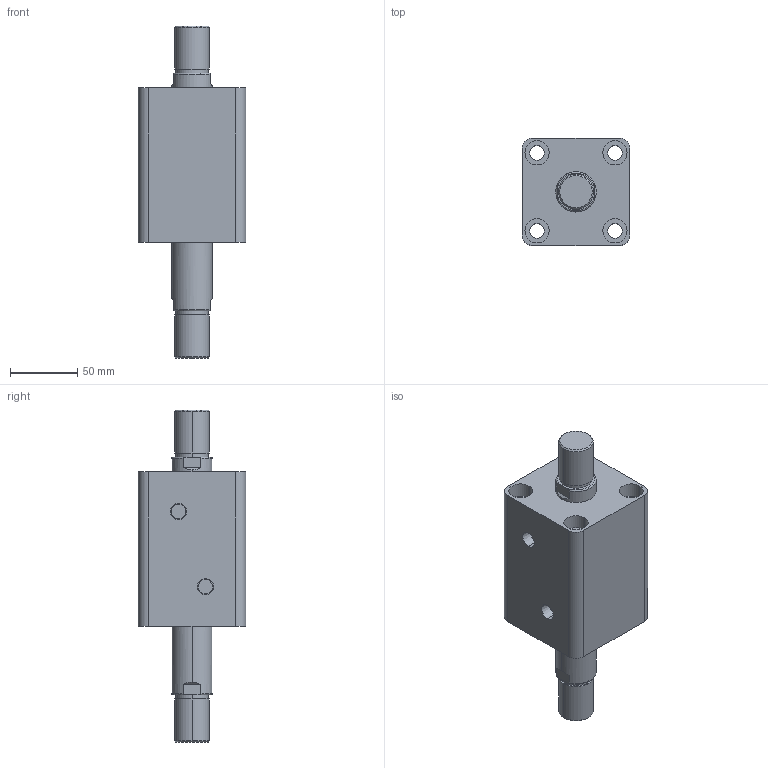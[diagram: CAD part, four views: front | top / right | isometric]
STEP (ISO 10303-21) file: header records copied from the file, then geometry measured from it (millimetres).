
FILE_DESCRIPTION (( 'STEP AP203' ), '1' );
FILE_NAME ('HTB-SW50-40W.STEP', '2019-10-07T09:20:06', ( '微软用户' ), ( '微软中国' ), 'SwSTEP 2.0', 'SolidWorks 2012', '' );
FILE_SCHEMA (( 'CONFIG_CONTROL_DESIGN' ));
Length unit declared in the file: millimetre
Products named in the file (3): HTB-SW50-40W; HTB-SW50-40W活塞杆; HTB-SW50-40掛极
Assembly tree (2 placements, depth 2):
  HTB-SW50-40W
    HTB-SW50-40掛极
    HTB-SW50-40W活塞杆
Bounding box: 80 x 80 x 247 mm (x, y, z)
Volume: 699567.7 mm3; surface area: 109150.3 mm2
Topology: 2 solids, 2 shells, 108 faces, 240 edges, 156 vertices
Faces by surface type: cylinder 52, plane 36, torus 12, cone 8
Entity records: 3449 total; most frequent: CARTESIAN_POINT 629, DIRECTION 586, ORIENTED_EDGE 480, AXIS2_PLACEMENT_3D 249, EDGE_CURVE 240, VERTEX_POINT 156, EDGE_LOOP 138, CIRCLE 136
